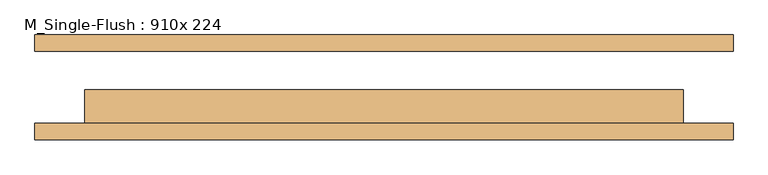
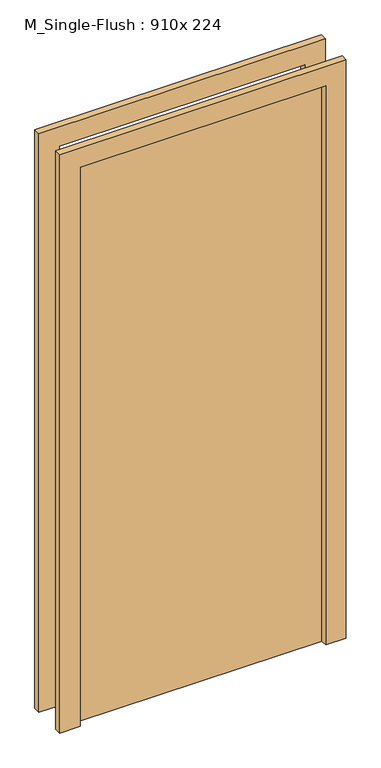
"""IFC4 building model written with IfcOpenShell, lengths in millimetres: door geometry, M_Single-Flush : 910x 224."""

from ifc_helpers import new_model, si_unit, frame, origin, origin_with_axes, place, context, project, spatial, polyline, outline, extrude, source, transform, mapped, element, save


def m_single_flush_910x_224_031eae0d(model_context):
    return source(origin(), model_context, "Body", "SweptSolid", [
        extrude(outline(polyline([(2276.0, -533.5), (0.0, -533.5), (0.0, -457.5), (2200.0, -457.5), (2200.0, 457.5), (0.0, 457.5), (0.0, 533.5), (2276.0, 533.5), (2276.0, -533.5)])), frame((0.0, -80.0, 0.0), z_axis=(0.0, 1.0, 0.0), x_axis=(0.0, 0.0, 1.0)), (0.0, 0.0, 1.0), 25.0),
        extrude(outline(polyline([(2276.0, 533.5), (2276.0, -533.5), (0.0, -533.5), (0.0, -457.5), (2200.0, -457.5), (2200.0, 457.5), (0.0, 457.5), (0.0, 533.5), (2276.0, 533.5)])), frame((0.0, 55.0, 0.0), z_axis=(0.0, 1.0, 0.0), x_axis=(0.0, 0.0, 1.0)), (0.0, 0.0, 1.0), 25.0),
        extrude(outline(polyline([(457.5, -4.0), (457.5, -55.0), (-457.5, -55.0), (-457.5, -4.0), (457.5, -4.0)])), origin_with_axes(), (0.0, 0.0, 1.0), 2200.0),
    ])


if __name__ == "__main__":
    model = new_model("IFC4")
    model_context = context("Model", 3, world=origin())
    ifc_project = project(units=[si_unit("LENGTHUNIT", "METRE", prefix="MILLI")], contexts=[model_context])
    site = spatial("IfcSite", under=ifc_project)
    building = spatial("IfcBuilding", under=site)
    placement = place(None, origin())
    m_single_flush_910x_224_shape = m_single_flush_910x_224_031eae0d(model_context)
    element("IfcDoor", 1, ObjectType="M_Single-Flush : 910x 224", at=placement, inside=building, context=model_context, shape_type="MappedRepresentation", body=[
        mapped(m_single_flush_910x_224_shape, transform((0.0, 0.0, 0.0), x_axis=(1.0, 0.0, 0.0), y_axis=(0.0, 1.0, 0.0), z_axis=(0.0, 0.0, 1.0))),
    ])
    save(model, "model.ifc")
